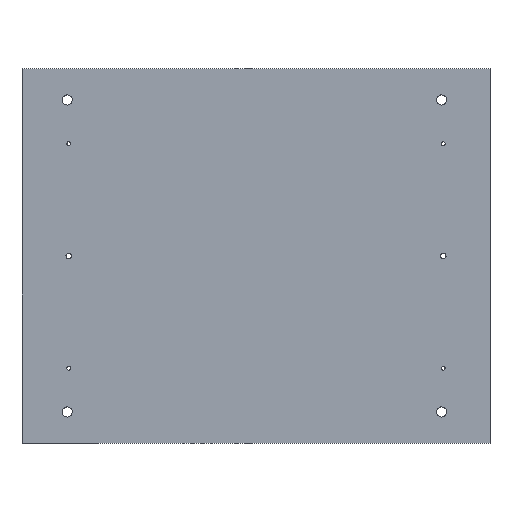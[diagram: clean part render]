
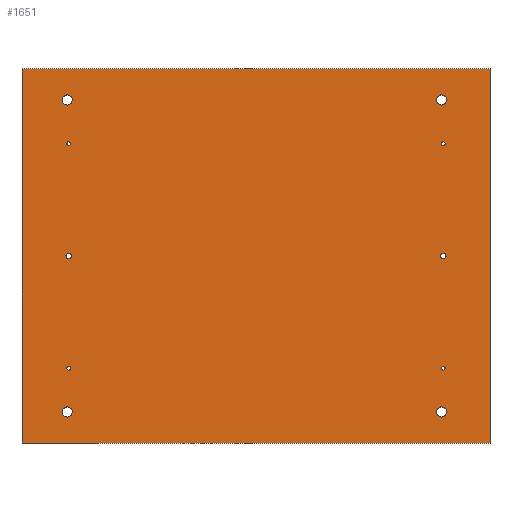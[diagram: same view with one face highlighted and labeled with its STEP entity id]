
A CAD part, top view. The second image highlights one B-rep face of the part: STEP entity #1651.
In plain terms, the highlighted planar face has unit normal (0, 0, 1).
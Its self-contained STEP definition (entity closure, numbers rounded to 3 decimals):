
#99=CARTESIAN_POINT('Axis2P3D Location',(-60.,0.,-0.745)) ;
#103=CARTESIAN_POINT('Vertex',(-60.79,-0.431,-0.745)) ;
#105=CARTESIAN_POINT('Vertex',(-59.21,0.431,-0.745)) ;
#125=CARTESIAN_POINT('Axis2P3D Location',(-60.,0.,-0.745)) ;
#232=CARTESIAN_POINT('Vertex',(-75.,-60.,-0.745)) ;
#235=CARTESIAN_POINT('Line Origine',(-75.,0.,-0.745)) ;
#239=CARTESIAN_POINT('Vertex',(-75.,60.,-0.745)) ;
#323=CARTESIAN_POINT('Line Origine',(0.,60.,-0.745)) ;
#327=CARTESIAN_POINT('Vertex',(75.,60.,-0.745)) ;
#424=CARTESIAN_POINT('Line Origine',(75.,0.,-0.745)) ;
#428=CARTESIAN_POINT('Vertex',(75.,-60.,-0.745)) ;
#581=CARTESIAN_POINT('Vertex',(60.923,-49.223,-0.745)) ;
#586=CARTESIAN_POINT('Axis2P3D Location',(59.5,-50.,-0.745)) ;
#590=CARTESIAN_POINT('Vertex',(58.077,-50.777,-0.745)) ;
#612=CARTESIAN_POINT('Axis2P3D Location',(59.5,-50.,-0.745)) ;
#638=CARTESIAN_POINT('Vertex',(60.923,50.777,-0.745)) ;
#643=CARTESIAN_POINT('Axis2P3D Location',(59.5,50.,-0.745)) ;
#647=CARTESIAN_POINT('Vertex',(58.077,49.223,-0.745)) ;
#669=CARTESIAN_POINT('Axis2P3D Location',(59.5,50.,-0.745)) ;
#695=CARTESIAN_POINT('Vertex',(-59.077,50.777,-0.745)) ;
#700=CARTESIAN_POINT('Axis2P3D Location',(-60.5,50.,-0.745)) ;
#704=CARTESIAN_POINT('Vertex',(-61.923,49.223,-0.745)) ;
#726=CARTESIAN_POINT('Axis2P3D Location',(-60.5,50.,-0.745)) ;
#752=CARTESIAN_POINT('Vertex',(-59.077,-49.223,-0.745)) ;
#757=CARTESIAN_POINT('Axis2P3D Location',(-60.5,-50.,-0.745)) ;
#761=CARTESIAN_POINT('Vertex',(-61.923,-50.777,-0.745)) ;
#783=CARTESIAN_POINT('Axis2P3D Location',(-60.5,-50.,-0.745)) ;
#805=CARTESIAN_POINT('Axis2P3D Location',(-60.,36.,-0.745)) ;
#809=CARTESIAN_POINT('Vertex',(-60.536,35.707,-0.745)) ;
#811=CARTESIAN_POINT('Vertex',(-59.464,36.293,-0.745)) ;
#840=CARTESIAN_POINT('Axis2P3D Location',(-60.,36.,-0.745)) ;
#862=CARTESIAN_POINT('Axis2P3D Location',(-60.,-36.,-0.745)) ;
#866=CARTESIAN_POINT('Vertex',(-59.464,-35.707,-0.745)) ;
#868=CARTESIAN_POINT('Vertex',(-60.536,-36.293,-0.745)) ;
#897=CARTESIAN_POINT('Axis2P3D Location',(-60.,-36.,-0.745)) ;
#919=CARTESIAN_POINT('Axis2P3D Location',(60.,36.,-0.745)) ;
#923=CARTESIAN_POINT('Vertex',(60.536,36.293,-0.745)) ;
#925=CARTESIAN_POINT('Vertex',(59.464,35.707,-0.745)) ;
#954=CARTESIAN_POINT('Axis2P3D Location',(60.,36.,-0.745)) ;
#976=CARTESIAN_POINT('Axis2P3D Location',(60.,-36.,-0.745)) ;
#980=CARTESIAN_POINT('Vertex',(60.536,-35.707,-0.745)) ;
#982=CARTESIAN_POINT('Vertex',(59.464,-36.293,-0.745)) ;
#1011=CARTESIAN_POINT('Axis2P3D Location',(60.,-36.,-0.745)) ;
#1581=CARTESIAN_POINT('Axis2P3D Location',(0.,0.,-0.745)) ;
#1586=CARTESIAN_POINT('Line Origine',(0.,-60.,-0.745)) ;
#1597=CARTESIAN_POINT('Axis2P3D Location',(60.,0.,-0.745)) ;
#1601=CARTESIAN_POINT('Vertex',(59.21,-0.431,-0.745)) ;
#1603=CARTESIAN_POINT('Vertex',(60.79,0.431,-0.745)) ;
#1606=CARTESIAN_POINT('Axis2P3D Location',(60.,0.,-0.745)) ;
#100=DIRECTION('Axis2P3D Direction',(0.,-0.,1.)) ;
#126=DIRECTION('Axis2P3D Direction',(0.,-0.,1.)) ;
#236=DIRECTION('Vector Direction',(0.,1.,0.)) ;
#324=DIRECTION('Vector Direction',(-1.,0.,0.)) ;
#425=DIRECTION('Vector Direction',(0.,-1.,0.)) ;
#587=DIRECTION('Axis2P3D Direction',(0.,-0.,1.)) ;
#613=DIRECTION('Axis2P3D Direction',(0.,-0.,1.)) ;
#644=DIRECTION('Axis2P3D Direction',(0.,-0.,1.)) ;
#670=DIRECTION('Axis2P3D Direction',(0.,-0.,1.)) ;
#701=DIRECTION('Axis2P3D Direction',(0.,-0.,1.)) ;
#727=DIRECTION('Axis2P3D Direction',(0.,-0.,1.)) ;
#758=DIRECTION('Axis2P3D Direction',(0.,-0.,1.)) ;
#784=DIRECTION('Axis2P3D Direction',(0.,-0.,1.)) ;
#806=DIRECTION('Axis2P3D Direction',(0.,-0.,1.)) ;
#841=DIRECTION('Axis2P3D Direction',(0.,-0.,1.)) ;
#863=DIRECTION('Axis2P3D Direction',(0.,0.,1.)) ;
#898=DIRECTION('Axis2P3D Direction',(0.,0.,1.)) ;
#920=DIRECTION('Axis2P3D Direction',(0.,0.,1.)) ;
#955=DIRECTION('Axis2P3D Direction',(0.,0.,1.)) ;
#977=DIRECTION('Axis2P3D Direction',(0.,0.,1.)) ;
#1012=DIRECTION('Axis2P3D Direction',(0.,0.,1.)) ;
#1582=DIRECTION('Axis2P3D Direction',(0.,0.,-1.)) ;
#1583=DIRECTION('Axis2P3D XDirection',(1.,0.,0.)) ;
#1587=DIRECTION('Vector Direction',(1.,0.,0.)) ;
#1598=DIRECTION('Axis2P3D Direction',(0.,0.,-1.)) ;
#1607=DIRECTION('Axis2P3D Direction',(0.,0.,-1.)) ;
#101=AXIS2_PLACEMENT_3D('Circle Axis2P3D',#99,#100,$) ;
#127=AXIS2_PLACEMENT_3D('Circle Axis2P3D',#125,#126,$) ;
#588=AXIS2_PLACEMENT_3D('Circle Axis2P3D',#586,#587,$) ;
#614=AXIS2_PLACEMENT_3D('Circle Axis2P3D',#612,#613,$) ;
#645=AXIS2_PLACEMENT_3D('Circle Axis2P3D',#643,#644,$) ;
#671=AXIS2_PLACEMENT_3D('Circle Axis2P3D',#669,#670,$) ;
#702=AXIS2_PLACEMENT_3D('Circle Axis2P3D',#700,#701,$) ;
#728=AXIS2_PLACEMENT_3D('Circle Axis2P3D',#726,#727,$) ;
#759=AXIS2_PLACEMENT_3D('Circle Axis2P3D',#757,#758,$) ;
#785=AXIS2_PLACEMENT_3D('Circle Axis2P3D',#783,#784,$) ;
#807=AXIS2_PLACEMENT_3D('Circle Axis2P3D',#805,#806,$) ;
#842=AXIS2_PLACEMENT_3D('Circle Axis2P3D',#840,#841,$) ;
#864=AXIS2_PLACEMENT_3D('Circle Axis2P3D',#862,#863,$) ;
#899=AXIS2_PLACEMENT_3D('Circle Axis2P3D',#897,#898,$) ;
#921=AXIS2_PLACEMENT_3D('Circle Axis2P3D',#919,#920,$) ;
#956=AXIS2_PLACEMENT_3D('Circle Axis2P3D',#954,#955,$) ;
#978=AXIS2_PLACEMENT_3D('Circle Axis2P3D',#976,#977,$) ;
#1013=AXIS2_PLACEMENT_3D('Circle Axis2P3D',#1011,#1012,$) ;
#1584=AXIS2_PLACEMENT_3D('Plane Axis2P3D',#1581,#1582,#1583) ;
#1599=AXIS2_PLACEMENT_3D('Circle Axis2P3D',#1597,#1598,$) ;
#1608=AXIS2_PLACEMENT_3D('Circle Axis2P3D',#1606,#1607,$) ;
#1592=ORIENTED_EDGE('',*,*,#1590,.F.) ;
#1593=ORIENTED_EDGE('',*,*,#430,.F.) ;
#1594=ORIENTED_EDGE('',*,*,#329,.F.) ;
#1595=ORIENTED_EDGE('',*,*,#241,.F.) ;
#1612=ORIENTED_EDGE('',*,*,#1605,.T.) ;
#1613=ORIENTED_EDGE('',*,*,#1610,.T.) ;
#1616=ORIENTED_EDGE('',*,*,#129,.T.) ;
#1617=ORIENTED_EDGE('',*,*,#107,.T.) ;
#1620=ORIENTED_EDGE('',*,*,#616,.T.) ;
#1621=ORIENTED_EDGE('',*,*,#592,.T.) ;
#1624=ORIENTED_EDGE('',*,*,#673,.T.) ;
#1625=ORIENTED_EDGE('',*,*,#649,.T.) ;
#1628=ORIENTED_EDGE('',*,*,#730,.T.) ;
#1629=ORIENTED_EDGE('',*,*,#706,.T.) ;
#1632=ORIENTED_EDGE('',*,*,#787,.T.) ;
#1633=ORIENTED_EDGE('',*,*,#763,.T.) ;
#1636=ORIENTED_EDGE('',*,*,#844,.T.) ;
#1637=ORIENTED_EDGE('',*,*,#813,.T.) ;
#1640=ORIENTED_EDGE('',*,*,#901,.T.) ;
#1641=ORIENTED_EDGE('',*,*,#870,.T.) ;
#1644=ORIENTED_EDGE('',*,*,#958,.T.) ;
#1645=ORIENTED_EDGE('',*,*,#927,.T.) ;
#1648=ORIENTED_EDGE('',*,*,#1015,.T.) ;
#1649=ORIENTED_EDGE('',*,*,#984,.T.) ;
#1614=FACE_BOUND('',#1611,.T.) ;
#1618=FACE_BOUND('',#1615,.T.) ;
#1622=FACE_BOUND('',#1619,.T.) ;
#1626=FACE_BOUND('',#1623,.T.) ;
#1630=FACE_BOUND('',#1627,.T.) ;
#1634=FACE_BOUND('',#1631,.T.) ;
#1638=FACE_BOUND('',#1635,.T.) ;
#1642=FACE_BOUND('',#1639,.T.) ;
#1646=FACE_BOUND('',#1643,.T.) ;
#1650=FACE_BOUND('',#1647,.T.) ;
#237=VECTOR('Line Direction',#236,1.) ;
#325=VECTOR('Line Direction',#324,1.) ;
#426=VECTOR('Line Direction',#425,1.) ;
#1588=VECTOR('Line Direction',#1587,1.) ;
#1651=ADVANCED_FACE('Corps principal',(#1596,#1614,#1618,#1622,#1626,#1630,#1634,#1638,#1642,#1646,#1650),#1585,.F.) ;
#102=CIRCLE('generated circle',#101,0.9) ;
#128=CIRCLE('generated circle',#127,0.9) ;
#589=CIRCLE('generated circle',#588,1.621) ;
#615=CIRCLE('generated circle',#614,1.621) ;
#646=CIRCLE('generated circle',#645,1.621) ;
#672=CIRCLE('generated circle',#671,1.621) ;
#703=CIRCLE('generated circle',#702,1.621) ;
#729=CIRCLE('generated circle',#728,1.621) ;
#760=CIRCLE('generated circle',#759,1.621) ;
#786=CIRCLE('generated circle',#785,1.621) ;
#808=CIRCLE('generated circle',#807,0.611) ;
#843=CIRCLE('generated circle',#842,0.611) ;
#865=CIRCLE('generated circle',#864,0.611) ;
#900=CIRCLE('generated circle',#899,0.611) ;
#922=CIRCLE('generated circle',#921,0.611) ;
#957=CIRCLE('generated circle',#956,0.611) ;
#979=CIRCLE('generated circle',#978,0.611) ;
#1014=CIRCLE('generated circle',#1013,0.611) ;
#1600=CIRCLE('generated circle',#1599,0.9) ;
#1609=CIRCLE('generated circle',#1608,0.9) ;
#107=EDGE_CURVE('',#104,#106,#102,.F.) ;
#129=EDGE_CURVE('',#106,#104,#128,.F.) ;
#241=EDGE_CURVE('',#233,#240,#238,.T.) ;
#329=EDGE_CURVE('',#240,#328,#326,.F.) ;
#430=EDGE_CURVE('',#328,#429,#427,.T.) ;
#592=EDGE_CURVE('',#591,#582,#589,.F.) ;
#616=EDGE_CURVE('',#582,#591,#615,.F.) ;
#649=EDGE_CURVE('',#648,#639,#646,.F.) ;
#673=EDGE_CURVE('',#639,#648,#672,.F.) ;
#706=EDGE_CURVE('',#705,#696,#703,.F.) ;
#730=EDGE_CURVE('',#696,#705,#729,.F.) ;
#763=EDGE_CURVE('',#762,#753,#760,.F.) ;
#787=EDGE_CURVE('',#753,#762,#786,.F.) ;
#813=EDGE_CURVE('',#810,#812,#808,.F.) ;
#844=EDGE_CURVE('',#812,#810,#843,.F.) ;
#870=EDGE_CURVE('',#867,#869,#865,.F.) ;
#901=EDGE_CURVE('',#869,#867,#900,.F.) ;
#927=EDGE_CURVE('',#924,#926,#922,.F.) ;
#958=EDGE_CURVE('',#926,#924,#957,.F.) ;
#984=EDGE_CURVE('',#981,#983,#979,.F.) ;
#1015=EDGE_CURVE('',#983,#981,#1014,.F.) ;
#1590=EDGE_CURVE('',#429,#233,#1589,.F.) ;
#1605=EDGE_CURVE('',#1602,#1604,#1600,.T.) ;
#1610=EDGE_CURVE('',#1604,#1602,#1609,.T.) ;
#1591=EDGE_LOOP('',(#1592,#1593,#1594,#1595)) ;
#1611=EDGE_LOOP('',(#1612,#1613)) ;
#1615=EDGE_LOOP('',(#1616,#1617)) ;
#1619=EDGE_LOOP('',(#1620,#1621)) ;
#1623=EDGE_LOOP('',(#1624,#1625)) ;
#1627=EDGE_LOOP('',(#1628,#1629)) ;
#1631=EDGE_LOOP('',(#1632,#1633)) ;
#1635=EDGE_LOOP('',(#1636,#1637)) ;
#1639=EDGE_LOOP('',(#1640,#1641)) ;
#1643=EDGE_LOOP('',(#1644,#1645)) ;
#1647=EDGE_LOOP('',(#1648,#1649)) ;
#1596=FACE_OUTER_BOUND('',#1591,.T.) ;
#238=LINE('Line',#235,#237) ;
#326=LINE('Line',#323,#325) ;
#427=LINE('Line',#424,#426) ;
#1589=LINE('Line',#1586,#1588) ;
#1585=PLANE('Plane',#1584) ;
#104=VERTEX_POINT('',#103) ;
#106=VERTEX_POINT('',#105) ;
#233=VERTEX_POINT('',#232) ;
#240=VERTEX_POINT('',#239) ;
#328=VERTEX_POINT('',#327) ;
#429=VERTEX_POINT('',#428) ;
#582=VERTEX_POINT('',#581) ;
#591=VERTEX_POINT('',#590) ;
#639=VERTEX_POINT('',#638) ;
#648=VERTEX_POINT('',#647) ;
#696=VERTEX_POINT('',#695) ;
#705=VERTEX_POINT('',#704) ;
#753=VERTEX_POINT('',#752) ;
#762=VERTEX_POINT('',#761) ;
#810=VERTEX_POINT('',#809) ;
#812=VERTEX_POINT('',#811) ;
#867=VERTEX_POINT('',#866) ;
#869=VERTEX_POINT('',#868) ;
#924=VERTEX_POINT('',#923) ;
#926=VERTEX_POINT('',#925) ;
#981=VERTEX_POINT('',#980) ;
#983=VERTEX_POINT('',#982) ;
#1602=VERTEX_POINT('',#1601) ;
#1604=VERTEX_POINT('',#1603) ;
